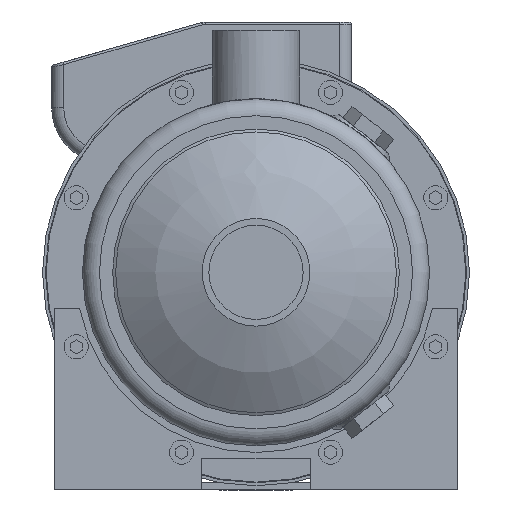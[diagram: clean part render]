
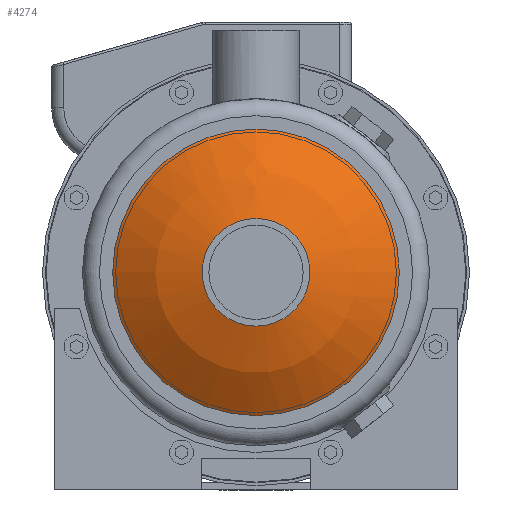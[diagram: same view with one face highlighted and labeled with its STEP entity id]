
A CAD part, left-side view. The second image highlights one B-rep face of the part: STEP entity #4274.
In plain terms, the highlighted spherical face has radius 100 mm.
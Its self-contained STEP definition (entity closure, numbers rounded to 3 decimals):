
#57=SPHERICAL_SURFACE('',#5675,100.);
#969=ORIENTED_EDGE('',*,*,#2136,.T.);
#970=ORIENTED_EDGE('',*,*,#2135,.F.);
#2135=EDGE_CURVE('',#2723,#2723,#3123,.T.);
#2136=EDGE_CURVE('',#2724,#2724,#3124,.T.);
#2723=VERTEX_POINT('',#7616);
#2724=VERTEX_POINT('',#7619);
#3123=CIRCLE('',#5674,22.25);
#3124=CIRCLE('',#5676,59.25);
#3330=EDGE_LOOP('',(#969));
#3331=EDGE_LOOP('',(#970));
#3725=FACE_BOUND('',#3330,.T.);
#3726=FACE_BOUND('',#3331,.T.);
#4274=ADVANCED_FACE('',(#3725,#3726),#57,.T.);
#5674=AXIS2_PLACEMENT_3D('',#7615,#6207,#6208);
#5675=AXIS2_PLACEMENT_3D('',#7617,#6209,#6210);
#5676=AXIS2_PLACEMENT_3D('',#7618,#6211,#6212);
#6207=DIRECTION('',(-1.,0.,0.));
#6208=DIRECTION('',(0.,0.,1.));
#6209=DIRECTION('',(-1.,0.,0.));
#6210=DIRECTION('',(0.,0.,1.));
#6211=DIRECTION('',(-1.,0.,0.));
#6212=DIRECTION('',(0.,0.,1.));
#7615=CARTESIAN_POINT('',(-91.293,0.,0.));
#7616=CARTESIAN_POINT('',(-91.293,0.,22.25));
#7617=CARTESIAN_POINT('',(6.2,0.,0.));
#7618=CARTESIAN_POINT('',(-74.357,0.,0.));
#7619=CARTESIAN_POINT('',(-74.357,0.,59.25));
